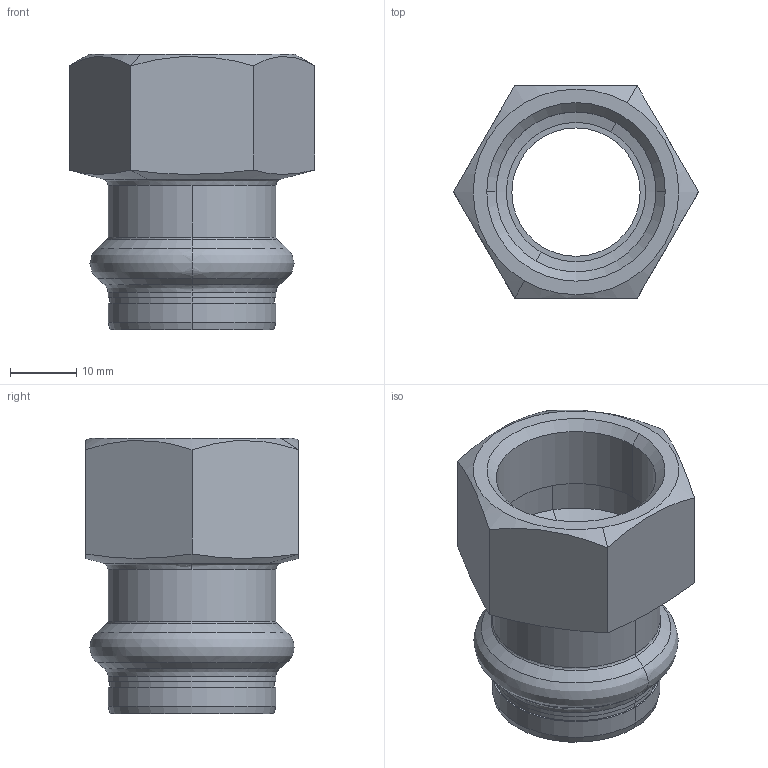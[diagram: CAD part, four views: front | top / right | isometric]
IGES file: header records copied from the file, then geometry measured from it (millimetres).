
Start section: Elysium IGES Interface
Global section: file name: F:\3d modellen sudo\S-Pr VP\SP6270GV\6270GVW2234.igs; native system: CoCreate Modeling 17.00A  17-Jun-2010; preprocessor: CoCreate IGES_3D V2.2; author: Unknown; organization: Unknown; date: 20130128.124051; units: millimetre
Bounding box: 36.95 x 32 x 41.5 mm (x, y, z)
Volume: 11116 mm3; surface area: 8332.4 mm2
Topology: 1 solids, 1 shells, 60 faces, 142 edges, 84 vertices
Faces by surface type: bspline 60
